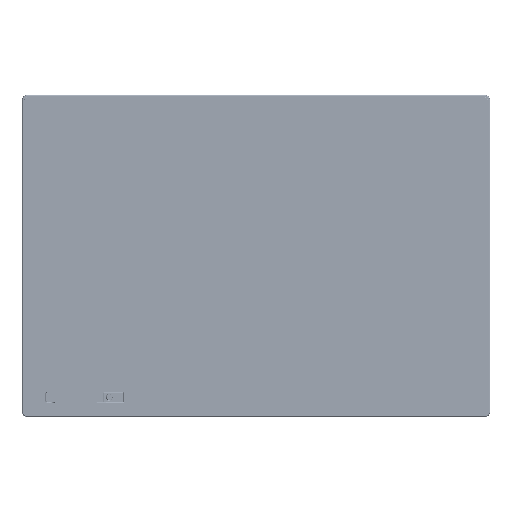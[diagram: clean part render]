
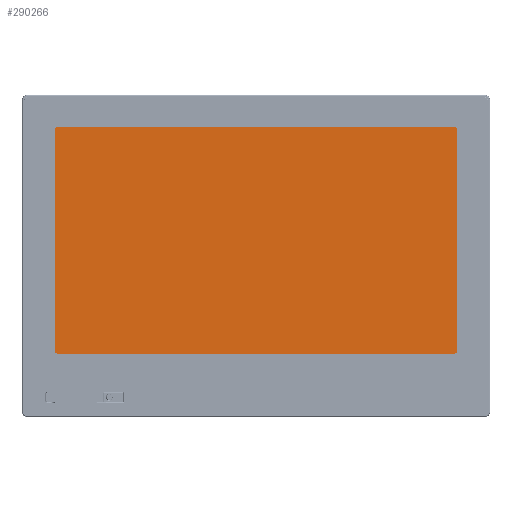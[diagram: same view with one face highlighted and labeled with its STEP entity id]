
A CAD part, top view. The second image highlights one B-rep face of the part: STEP entity #290266.
In plain terms, the highlighted planar face has unit normal (0, 0, 1).
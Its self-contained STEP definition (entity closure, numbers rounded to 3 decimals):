
#289685=CARTESIAN_POINT('',(-203.,114.5,-2.1));
#289686=DIRECTION('',(0.,0.,1.));
#289687=DIRECTION('',(0.,1.,0.));
#289688=AXIS2_PLACEMENT_3D('',#289685,#289686,#289687);
#289690=DIRECTION('',(1.,0.,0.));
#289691=VECTOR('',#289690,406.);
#289692=CARTESIAN_POINT('',(-203.,116.5,-2.1));
#289693=LINE('',#289692,#289691);
#289694=CARTESIAN_POINT('',(203.,114.5,-2.1));
#289695=DIRECTION('',(0.,0.,1.));
#289696=DIRECTION('',(1.,0.,0.));
#289697=AXIS2_PLACEMENT_3D('',#289694,#289695,#289696);
#289699=DIRECTION('',(0.,-1.,0.));
#289700=VECTOR('',#289699,227.);
#289701=CARTESIAN_POINT('',(205.,114.5,-2.1));
#289702=LINE('',#289701,#289700);
#289703=CARTESIAN_POINT('',(203.,-112.5,-2.1));
#289704=DIRECTION('',(0.,0.,1.));
#289705=DIRECTION('',(0.,-1.,0.));
#289706=AXIS2_PLACEMENT_3D('',#289703,#289704,#289705);
#289708=DIRECTION('',(-1.,0.,0.));
#289709=VECTOR('',#289708,406.);
#289710=CARTESIAN_POINT('',(203.,-114.5,-2.1));
#289711=LINE('',#289710,#289709);
#289712=CARTESIAN_POINT('',(-203.,-112.5,-2.1));
#289713=DIRECTION('',(0.,0.,1.));
#289714=DIRECTION('',(-1.,0.,0.));
#289715=AXIS2_PLACEMENT_3D('',#289712,#289713,#289714);
#289717=DIRECTION('',(0.,1.,0.));
#289718=VECTOR('',#289717,227.);
#289719=CARTESIAN_POINT('',(-205.,-112.5,-2.1));
#289720=LINE('',#289719,#289718);
#289824=CARTESIAN_POINT('',(-203.,116.5,-2.1));
#289825=CARTESIAN_POINT('',(-205.,114.5,-2.1));
#289826=VERTEX_POINT('',#289824);
#289827=VERTEX_POINT('',#289825);
#289832=CARTESIAN_POINT('',(205.,114.5,-2.1));
#289833=CARTESIAN_POINT('',(203.,116.5,-2.1));
#289834=VERTEX_POINT('',#289832);
#289835=VERTEX_POINT('',#289833);
#289840=CARTESIAN_POINT('',(203.,-114.5,-2.1));
#289841=CARTESIAN_POINT('',(205.,-112.5,-2.1));
#289842=VERTEX_POINT('',#289840);
#289843=VERTEX_POINT('',#289841);
#289848=CARTESIAN_POINT('',(-205.,-112.5,-2.1));
#289849=CARTESIAN_POINT('',(-203.,-114.5,-2.1));
#289850=VERTEX_POINT('',#289848);
#289851=VERTEX_POINT('',#289849);
#290245=CARTESIAN_POINT('',(0.,0.,-2.1));
#290246=DIRECTION('',(0.,0.,1.));
#290247=DIRECTION('',(1.,0.,0.));
#290248=AXIS2_PLACEMENT_3D('',#290245,#290246,#290247);
#290249=PLANE('',#290248);
#290251=ORIENTED_EDGE('',*,*,#290250,.F.);
#290253=ORIENTED_EDGE('',*,*,#290252,.T.);
#290254=ORIENTED_EDGE('',*,*,#290236,.F.);
#290255=ORIENTED_EDGE('',*,*,#290226,.T.);
#290257=ORIENTED_EDGE('',*,*,#290256,.F.);
#290259=ORIENTED_EDGE('',*,*,#290258,.T.);
#290261=ORIENTED_EDGE('',*,*,#290260,.F.);
#290263=ORIENTED_EDGE('',*,*,#290262,.T.);
#290264=EDGE_LOOP('',(#290251,#290253,#290254,#290255,#290257,#290259,#290261,
#290263));
#290265=FACE_OUTER_BOUND('',#290264,.F.);
#290266=ADVANCED_FACE('',(#290265),#290249,.T.);
#289689=CIRCLE('',#289688,2.);
#289698=CIRCLE('',#289697,2.);
#289707=CIRCLE('',#289706,2.);
#289716=CIRCLE('',#289715,2.);
#290226=EDGE_CURVE('',#289834,#289843,#289702,.T.);
#290236=EDGE_CURVE('',#289834,#289835,#289698,.T.);
#290250=EDGE_CURVE('',#289826,#289827,#289689,.T.);
#290252=EDGE_CURVE('',#289826,#289835,#289693,.T.);
#290256=EDGE_CURVE('',#289842,#289843,#289707,.T.);
#290258=EDGE_CURVE('',#289842,#289851,#289711,.T.);
#290260=EDGE_CURVE('',#289850,#289851,#289716,.T.);
#290262=EDGE_CURVE('',#289850,#289827,#289720,.T.);
